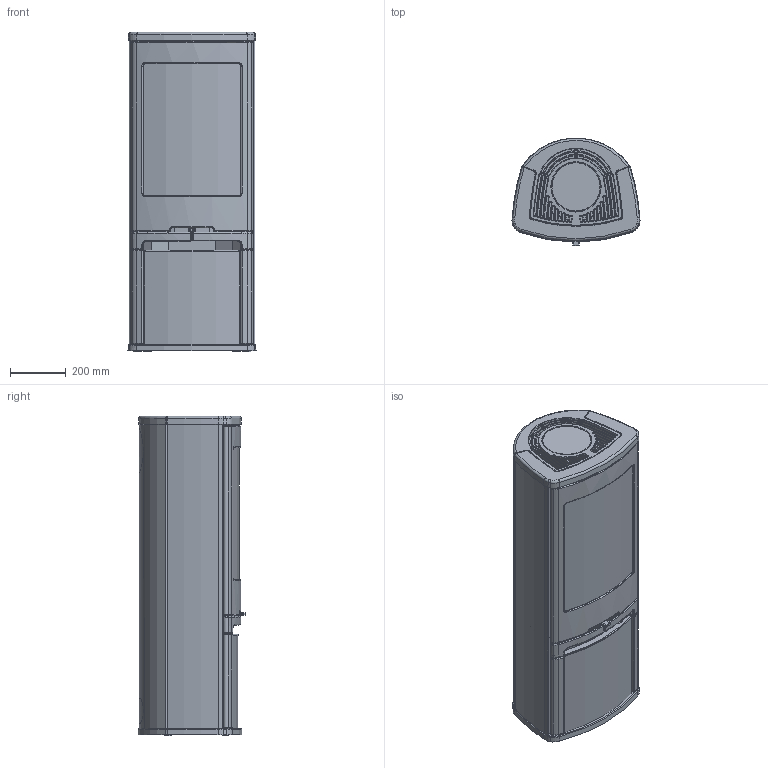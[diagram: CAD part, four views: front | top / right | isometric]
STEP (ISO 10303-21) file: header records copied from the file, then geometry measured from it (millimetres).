
FILE_DESCRIPTION(/* description */ ('Unknown'),/* implementation_level */ '2;1');
FILE_NAME(/* name */ 'C710 Assembly',/* time_stamp */ '2017-10-26T16:15:56+02:00',/* author */ ('Unknown'),/* organization */ ('NIBE AB/Contura'),/* preprocessor_version */ 'ST-DEVELOPER v16.7',/* originating_system */ 'DEX',/* authorisation */ $);
FILE_SCHEMA (('AUTOMOTIVE_DESIGN {1 0 10303 214 3 1 1}'));
Products named in the file (13): DSN1019902; Vedfacksfront C700; Door C700; Lower door C700; Vermiculite C790; Foot C750; DSN1019905; Frame C750; Back C750; Top C700; DSN1019903; Glass C700; Fire C700
Assembly tree (13 placements, depth 2):
  DSN1019902
    Vedfacksfront C700  x2
    Door C700
    Lower door C700
    Vermiculite C790
    Foot C750
    DSN1019905
    Frame C750
    Back C750
    Top C700
    DSN1019903
    Glass C700
    Fire C700
Bounding box: 461.33 x 387.88 x 1150 mm (x, y, z)
Volume: 117504985.4 mm3; surface area: 8349380.8 mm2
Topology: 21 solids, 21 shells, 1265 faces, 3173 edges, 1946 vertices
Faces by surface type: plane 417, bspline 288, cylinder 199, cone 170, torus 162, sphere 29
Full cylindrical faces by diameter (mm): 5 x6, 10.1 x2, 15 x1, 65 x1, 113 x1, 150 x2, 168 x1, 204 x1, 208 x1
Entity records: 49266 total; most frequent: CARTESIAN_POINT 21172, ORIENTED_EDGE 6028, DIRECTION 5408, EDGE_CURVE 3014, AXIS2_PLACEMENT_3D 2069, VERTEX_POINT 1875, EDGE_LOOP 1355, FACE_BOUND 1355
